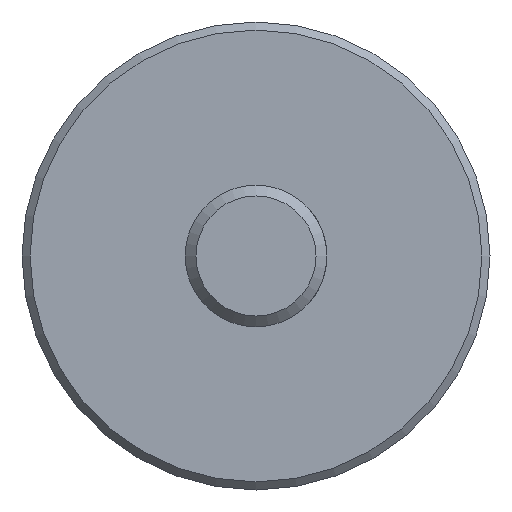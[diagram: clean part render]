
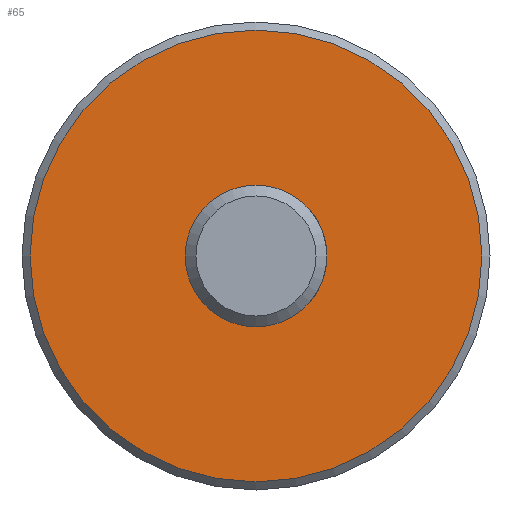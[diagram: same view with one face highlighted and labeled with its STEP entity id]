
A CAD part, front view. The second image highlights one B-rep face of the part: STEP entity #65.
In plain terms, the highlighted planar face has unit normal (0, -1, 0).
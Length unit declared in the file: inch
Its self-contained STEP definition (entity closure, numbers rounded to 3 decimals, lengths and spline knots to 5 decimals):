
#2 = DIRECTION ( 'NONE',  ( 0., 1., 0. ) ) ;
#11 = EDGE_CURVE ( 'NONE', #179, #179, #20, .T. ) ;
#20 = CIRCLE ( 'NONE', #546, 0.3937 ) ;
#44 = CARTESIAN_POINT ( 'NONE',  ( 0., 3.33, 0.3937 ) ) ;
#47 = FACE_OUTER_BOUND ( 'NONE', #379, .T. ) ;
#65 = ADVANCED_FACE ( 'NONE', ( #47, #404 ), #576, .F. ) ;
#76 = EDGE_LOOP ( 'NONE', ( #297 ) ) ;
#79 = VERTEX_POINT ( 'NONE', #127 ) ;
#127 = CARTESIAN_POINT ( 'NONE',  ( 0., 3.33, 1.255 ) ) ;
#149 = AXIS2_PLACEMENT_3D ( 'NONE', #355, #2, #493 ) ;
#179 = VERTEX_POINT ( 'NONE', #44 ) ;
#208 = DIRECTION ( 'NONE',  ( 0., 0., 1. ) ) ;
#260 = DIRECTION ( 'NONE',  ( 0., 0., 1. ) ) ;
#297 = ORIENTED_EDGE ( 'NONE', *, *, #11, .T. ) ;
#315 = EDGE_CURVE ( 'NONE', #79, #79, #392, .T. ) ;
#320 = AXIS2_PLACEMENT_3D ( 'NONE', #479, #429, #208 ) ;
#352 = CARTESIAN_POINT ( 'NONE',  ( 0., 3.33, 0. ) ) ;
#355 = CARTESIAN_POINT ( 'NONE',  ( 0.3937, 3.33, 0. ) ) ;
#373 = ORIENTED_EDGE ( 'NONE', *, *, #315, .F. ) ;
#379 = EDGE_LOOP ( 'NONE', ( #373 ) ) ;
#392 = CIRCLE ( 'NONE', #320, 1.255 ) ;
#399 = DIRECTION ( 'NONE',  ( 0., 1., 0. ) ) ;
#404 = FACE_BOUND ( 'NONE', #76, .T. ) ;
#429 = DIRECTION ( 'NONE',  ( 0., 1., 0. ) ) ;
#479 = CARTESIAN_POINT ( 'NONE',  ( 0., 3.33, 0. ) ) ;
#493 = DIRECTION ( 'NONE',  ( 0., 0., 1. ) ) ;
#546 = AXIS2_PLACEMENT_3D ( 'NONE', #352, #399, #260 ) ;
#576 = PLANE ( 'NONE',  #149 ) ;
